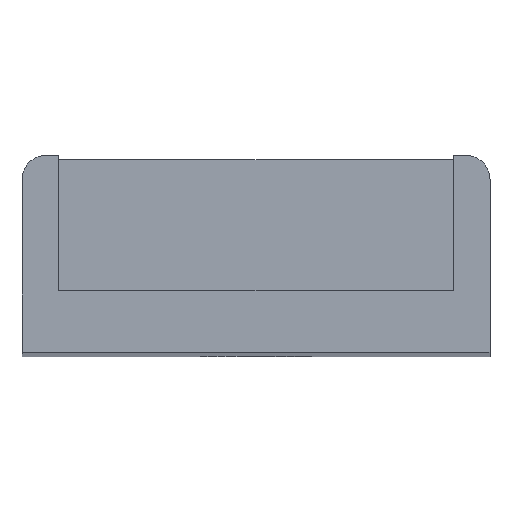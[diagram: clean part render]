
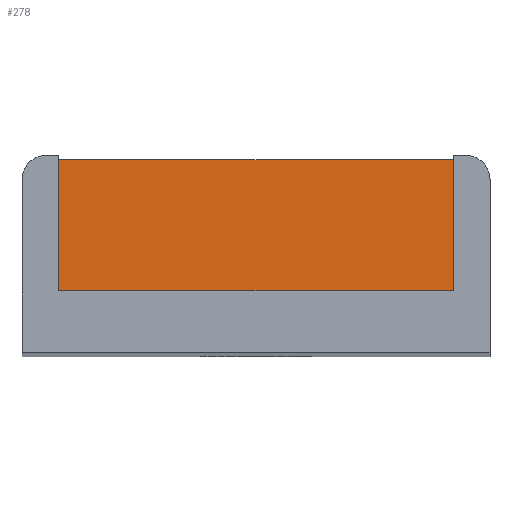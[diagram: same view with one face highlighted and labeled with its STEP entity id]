
A CAD part, top view. The second image highlights one B-rep face of the part: STEP entity #278.
In plain terms, the highlighted planar face has unit normal (0, 0, 1).
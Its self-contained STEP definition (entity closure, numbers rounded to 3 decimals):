
#32=FACE_OUTER_BOUND('',#48,.T.);
#48=EDGE_LOOP('',(#207,#208,#209,#210));
#79=LINE('',#428,#105);
#80=LINE('',#430,#106);
#81=LINE('',#432,#107);
#82=LINE('',#433,#108);
#105=VECTOR('',#343,5.5);
#106=VECTOR('',#344,16.);
#107=VECTOR('',#345,5.5);
#108=VECTOR('',#346,16.);
#141=VERTEX_POINT('',#426);
#142=VERTEX_POINT('',#427);
#143=VERTEX_POINT('',#429);
#144=VERTEX_POINT('',#431);
#169=EDGE_CURVE('',#141,#142,#79,.T.);
#170=EDGE_CURVE('',#141,#143,#80,.T.);
#171=EDGE_CURVE('',#144,#143,#81,.T.);
#172=EDGE_CURVE('',#142,#144,#82,.T.);
#207=ORIENTED_EDGE('',*,*,#169,.F.);
#208=ORIENTED_EDGE('',*,*,#170,.T.);
#209=ORIENTED_EDGE('',*,*,#171,.F.);
#210=ORIENTED_EDGE('',*,*,#172,.F.);
#268=PLANE('',#298);
#278=ADVANCED_FACE('',(#32),#268,.T.);
#298=AXIS2_PLACEMENT_3D('',#425,#341,#342);
#341=DIRECTION('center_axis',(0.,0.,1.));
#342=DIRECTION('ref_axis',(1.,0.,0.));
#343=DIRECTION('',(0.,-1.,0.));
#344=DIRECTION('',(-1.,0.,0.));
#345=DIRECTION('',(0.,1.,0.));
#346=DIRECTION('',(-1.,0.,0.));
#425=CARTESIAN_POINT('Origin',(9.5,4.,-110.));
#426=CARTESIAN_POINT('',(17.5,8.,-110.));
#427=CARTESIAN_POINT('',(17.5,2.5,-110.));
#428=CARTESIAN_POINT('',(17.5,8.,-110.));
#429=CARTESIAN_POINT('',(1.5,8.,-110.));
#430=CARTESIAN_POINT('',(19.,8.,-110.));
#431=CARTESIAN_POINT('',(1.5,2.5,-110.));
#432=CARTESIAN_POINT('',(1.5,2.5,-110.));
#433=CARTESIAN_POINT('',(17.5,2.5,-110.));
